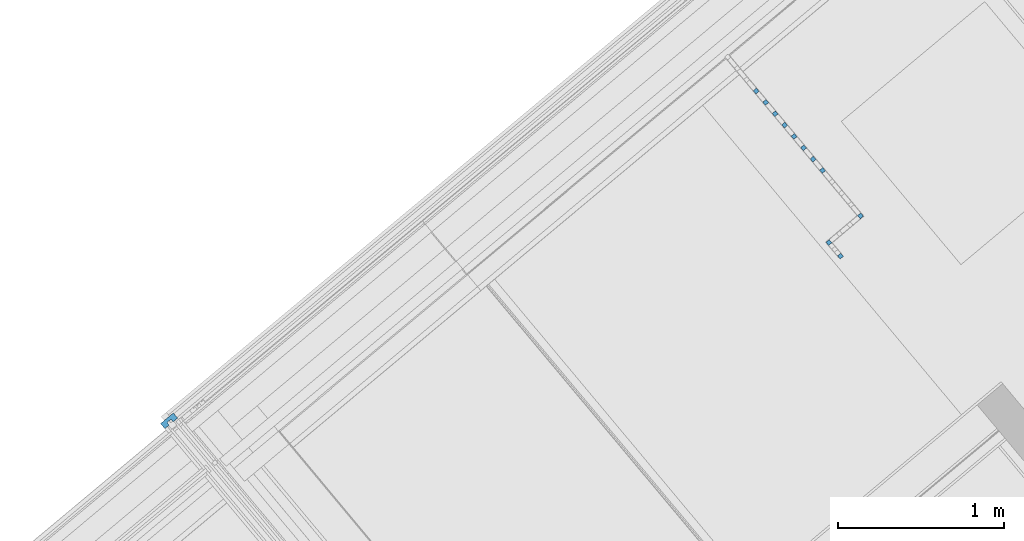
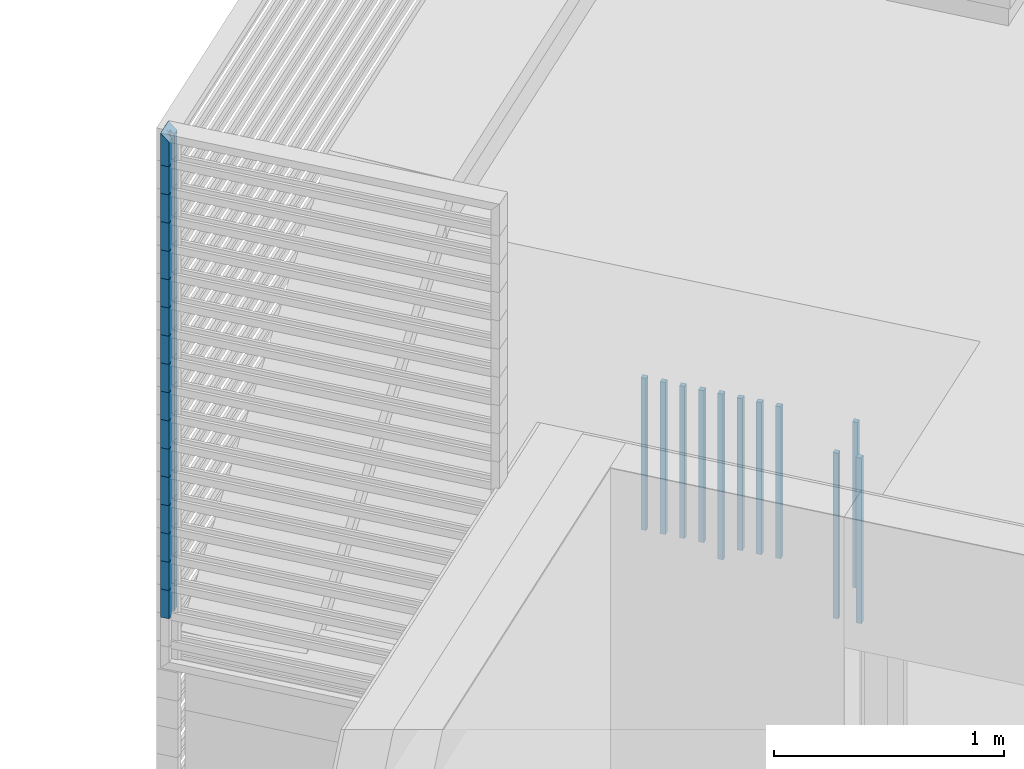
# One storey, part 42 of 50: 28 building element parts, 2 elements without a shape of their own.
"""IFC4 building model written with IfcOpenShell, lengths in metres."""

from ifc_helpers import new_model, entity, si_unit, converted_unit, derived_unit, direction, frame, origin_with_axes, place, context, subcontext, project, spatial, polygons, material, type_object, element, aggregate, save


model = new_model("IFC4")

# Units and contexts
model_context = context("Model", 3, precision=1e-05, world=origin_with_axes(), true_north=direction((0.0, 1.0)))
body_context = subcontext(model_context, "Body", "Model", "MODEL_VIEW")
ifc_project = project(units=[si_unit("LENGTHUNIT", "METRE"), si_unit("AREAUNIT", "SQUARE_METRE"), si_unit("VOLUMEUNIT", "CUBIC_METRE"), converted_unit("PLANEANGLEUNIT", "DEGREE", entity("IfcPlaneAngleMeasure", 0.0174532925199), si_unit("PLANEANGLEUNIT", "RADIAN"), dimensions=[0, 0, 0, 0, 0, 0, 0]), converted_unit("TIMEUNIT", "Year", entity("IfcTimeMeasure", 31556926.0), si_unit("TIMEUNIT", "SECOND"), dimensions=[0, 0, 1, 0, 0, 0, 0]), si_unit("MASSUNIT", "GRAM", prefix="KILO"), si_unit("THERMODYNAMICTEMPERATUREUNIT", "DEGREE_CELSIUS"), si_unit("LUMINOUSINTENSITYUNIT", "LUMEN"), si_unit("ENERGYUNIT", "JOULE", prefix="MEGA"), derived_unit("THERMALCONDUCTANCEUNIT", [(si_unit("POWERUNIT", "WATT"), 1), (si_unit("LENGTHUNIT", "METRE"), -1), (si_unit("THERMODYNAMICTEMPERATUREUNIT", "KELVIN"), -1)]), derived_unit("SPECIFICHEATCAPACITYUNIT", [(si_unit("ENERGYUNIT", "JOULE"), 1), (si_unit("MASSUNIT", "GRAM", prefix="KILO"), -1), (si_unit("THERMODYNAMICTEMPERATUREUNIT", "KELVIN"), -1)]), derived_unit("MASSDENSITYUNIT", [(si_unit("MASSUNIT", "GRAM", prefix="KILO"), 1), (si_unit("VOLUMEUNIT", "CUBIC_METRE"), -1)])], contexts=[model_context])

# Site, building, storey, space
site_placement = place(None, frame((-0.00153261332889, -0.00661245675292, 0.0), z_axis=(0.0, 0.0, 1.0), x_axis=(1.0, 0.0, 0.0)))
site = spatial("IfcSite", under=ifc_project, at=site_placement, Name="Gelände", CompositionType="ELEMENT")
building_placement = place(site_placement, origin_with_axes())
building = spatial("IfcBuilding", under=site, at=building_placement, Name="Gebäude", CompositionType="ELEMENT")
storey_placement = place(building_placement, frame((0.0, 0.0, 8.66), z_axis=(0.0, 0.0, 1.0), x_axis=(1.0, 0.0, 0.0)))
storey = spatial("IfcBuildingStorey", under=building, at=storey_placement, Name="DG2", CompositionType="ELEMENT", Elevation=8.66)
space_1_placement = place(storey_placement, frame((0.280300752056, 22.6307267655, 0.22), z_axis=(0.0, 0.0, 1.0), x_axis=(-0.641244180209, 0.767336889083, 0.0)))
space_1 = spatial("IfcSpace", under=storey, at=space_1_placement, CompositionType="ELEMENT", PredefinedType="NOTDEFINED")

# Railing, building element parts
railing_type = type_object("IfcRailingType", Name="Geländerart", PredefinedType="NOTDEFINED")
railing_placement = place(space_1_placement, frame((2.55535950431, -0.251805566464, -0.17), z_axis=(0.0, 0.0, 1.0), x_axis=(-0.641244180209, -0.767336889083, 0.0)))
railing = element("IfcRailing", 1, at=railing_placement, inside=space_1, type_object=railing_type, Name="Geländer - 001", PredefinedType="NOTDEFINED")
ifc_material_1 = material(Name="BEKLEIDUNG")
building_element_part_1_placement = place(railing_placement, origin_with_axes())
building_element_part_1 = element("IfcBuildingElementPart", 2, at=building_element_part_1_placement, material=ifc_material_1, Name="BEKLEIDUNG", PredefinedType="NOTDEFINED", context=body_context, shape_type="Tessellation", body=[
    polygons([(0.836143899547, -0.942270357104, 0.0), (0.855328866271, -0.926241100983, 0.0), (0.855328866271, -0.926241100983, 0.88), (0.836143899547, -0.942270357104, 0.88), (0.820114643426, -0.92308539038, 0.0), (0.83929961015, -0.907056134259, 0.0), (0.83929961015, -0.907056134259, 0.88), (0.820114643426, -0.92308539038, 0.88)], [[[1, 2, 3, 4]], [[1, 5, 6, 2]], [[2, 6, 7, 3]], [[4, 3, 7, 8]], [[5, 1, 4, 8]], [[6, 5, 8, 7]]], closed=True),
])
building_element_part_2_placement = place(railing_placement, origin_with_axes())
building_element_part_2 = element("IfcBuildingElementPart", 3, at=building_element_part_2_placement, material=ifc_material_1, Name="BEKLEIDUNG", PredefinedType="NOTDEFINED", context=body_context, shape_type="Tessellation", body=[
    polygons([(0.629909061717, -1.08347569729, 0.0), (0.646021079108, -1.10259121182, 0.0), (0.646021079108, -1.10259121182, 0.88), (0.629909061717, -1.08347569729, 0.88), (0.649024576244, -1.0673636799, 0.0), (0.665136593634, -1.08647919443, 0.0), (0.665136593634, -1.08647919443, 0.88), (0.649024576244, -1.0673636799, 0.88)], [[[1, 2, 3, 4]], [[1, 5, 6, 2]], [[2, 6, 7, 3]], [[4, 3, 7, 8]], [[5, 1, 4, 8]], [[6, 5, 8, 7]]], closed=True),
])
building_element_part_3_placement = place(railing_placement, origin_with_axes())
building_element_part_3 = element("IfcBuildingElementPart", 4, at=building_element_part_3_placement, material=ifc_material_1, Name="BEKLEIDUNG", PredefinedType="NOTDEFINED", context=body_context, shape_type="Tessellation", body=[
    polygons([(0.71546744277, -1.18434299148, 0.0), (0.734527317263, -1.16816519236, 0.0), (0.734527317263, -1.16816519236, 0.88), (0.71546744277, -1.18434299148, 0.88), (0.699289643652, -1.16528311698, 0.0), (0.718349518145, -1.14910531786, 0.0), (0.718349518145, -1.14910531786, 0.88), (0.699289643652, -1.16528311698, 0.88)], [[[1, 2, 3, 4]], [[1, 5, 6, 2]], [[2, 6, 7, 3]], [[4, 3, 7, 8]], [[5, 1, 4, 8]], [[6, 5, 8, 7]]], closed=True),
])
building_element_part_4_placement = place(railing_placement, origin_with_axes())
building_element_part_4 = element("IfcBuildingElementPart", 5, at=building_element_part_4_placement, material=ifc_material_1, Name="BEKLEIDUNG", PredefinedType="NOTDEFINED", context=body_context, shape_type="Tessellation", body=[
    polygons([(0.208081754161, -0.19056040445, 0.07), (0.227266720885, -0.174531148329, 0.07), (0.227266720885, -0.174531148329, 0.8775), (0.208081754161, -0.19056040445, 0.8775), (0.19205249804, -0.171375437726, 0.07), (0.211237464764, -0.155346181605, 0.07), (0.211237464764, -0.155346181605, 0.8775), (0.19205249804, -0.171375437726, 0.8775)], [[[1, 2, 3, 4]], [[1, 5, 6, 2]], [[2, 6, 7, 3]], [[4, 3, 7, 8]], [[5, 1, 4, 8]], [[6, 5, 8, 7]]], closed=True),
])
building_element_part_5_placement = place(railing_placement, origin_with_axes())
building_element_part_5 = element("IfcBuildingElementPart", 6, at=building_element_part_5_placement, material=ifc_material_1, Name="BEKLEIDUNG", PredefinedType="NOTDEFINED", context=body_context, shape_type="Tessellation", body=[
    polygons([(0.265178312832, -0.258897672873, 0.07), (0.284363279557, -0.242868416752, 0.07), (0.284363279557, -0.242868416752, 0.8775), (0.265178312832, -0.258897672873, 0.8775), (0.249149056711, -0.239712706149, 0.07), (0.268334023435, -0.223683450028, 0.07), (0.268334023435, -0.223683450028, 0.8775), (0.249149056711, -0.239712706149, 0.8775)], [[[1, 2, 3, 4]], [[1, 5, 6, 2]], [[2, 6, 7, 3]], [[4, 3, 7, 8]], [[5, 1, 4, 8]], [[6, 5, 8, 7]]], closed=True),
])
building_element_part_6_placement = place(railing_placement, origin_with_axes())
building_element_part_6 = element("IfcBuildingElementPart", 7, at=building_element_part_6_placement, material=ifc_material_1, Name="BEKLEIDUNG", PredefinedType="NOTDEFINED", context=body_context, shape_type="Tessellation", body=[
    polygons([(0.322274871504, -0.327234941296, 0.07), (0.341459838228, -0.311205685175, 0.07), (0.341459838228, -0.311205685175, 0.8775), (0.322274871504, -0.327234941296, 0.8775), (0.306245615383, -0.308049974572, 0.07), (0.325430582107, -0.292020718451, 0.07), (0.325430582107, -0.292020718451, 0.8775), (0.306245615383, -0.308049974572, 0.8775)], [[[1, 2, 3, 4]], [[1, 5, 6, 2]], [[2, 6, 7, 3]], [[4, 3, 7, 8]], [[5, 1, 4, 8]], [[6, 5, 8, 7]]], closed=True),
])
building_element_part_7_placement = place(railing_placement, origin_with_axes())
building_element_part_7 = element("IfcBuildingElementPart", 8, at=building_element_part_7_placement, material=ifc_material_1, Name="BEKLEIDUNG", PredefinedType="NOTDEFINED", context=body_context, shape_type="Tessellation", body=[
    polygons([(0.379371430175, -0.395572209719, 0.07), (0.398556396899, -0.379542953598, 0.07), (0.398556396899, -0.379542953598, 0.8775), (0.379371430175, -0.395572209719, 0.8775), (0.363342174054, -0.376387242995, 0.07), (0.382527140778, -0.360357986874, 0.07), (0.382527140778, -0.360357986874, 0.8775), (0.363342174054, -0.376387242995, 0.8775)], [[[1, 2, 3, 4]], [[1, 5, 6, 2]], [[2, 6, 7, 3]], [[4, 3, 7, 8]], [[5, 1, 4, 8]], [[6, 5, 8, 7]]], closed=True),
])
building_element_part_8_placement = place(railing_placement, origin_with_axes())
building_element_part_8 = element("IfcBuildingElementPart", 9, at=building_element_part_8_placement, material=ifc_material_1, Name="BEKLEIDUNG", PredefinedType="NOTDEFINED", context=body_context, shape_type="Tessellation", body=[
    polygons([(0.436467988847, -0.463909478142, 0.0), (0.455652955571, -0.447880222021, 0.0), (0.455652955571, -0.447880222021, 0.88), (0.436467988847, -0.463909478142, 0.88), (0.420438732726, -0.444724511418, 0.0), (0.43962369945, -0.428695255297, 0.0), (0.43962369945, -0.428695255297, 0.88), (0.420438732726, -0.444724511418, 0.88)], [[[1, 2, 3, 4]], [[1, 5, 6, 2]], [[2, 6, 7, 3]], [[4, 3, 7, 8]], [[5, 1, 4, 8]], [[6, 5, 8, 7]]], closed=True),
])
building_element_part_9_placement = place(railing_placement, origin_with_axes())
building_element_part_9 = element("IfcBuildingElementPart", 10, at=building_element_part_9_placement, material=ifc_material_1, Name="BEKLEIDUNG", PredefinedType="NOTDEFINED", context=body_context, shape_type="Tessellation", body=[
    polygons([(0.493564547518, -0.532246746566, 0.07), (0.512749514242, -0.516217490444, 0.07), (0.512749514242, -0.516217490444, 0.8775), (0.493564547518, -0.532246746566, 0.8775), (0.477535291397, -0.513061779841, 0.07), (0.496720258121, -0.49703252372, 0.07), (0.496720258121, -0.49703252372, 0.8775), (0.477535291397, -0.513061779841, 0.8775)], [[[1, 2, 3, 4]], [[1, 5, 6, 2]], [[2, 6, 7, 3]], [[4, 3, 7, 8]], [[5, 1, 4, 8]], [[6, 5, 8, 7]]], closed=True),
])
building_element_part_10_placement = place(railing_placement, origin_with_axes())
building_element_part_10 = element("IfcBuildingElementPart", 11, at=building_element_part_10_placement, material=ifc_material_1, Name="BEKLEIDUNG", PredefinedType="NOTDEFINED", context=body_context, shape_type="Tessellation", body=[
    polygons([(0.55066110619, -0.600584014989, 0.07), (0.569846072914, -0.584554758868, 0.07), (0.569846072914, -0.584554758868, 0.8775), (0.55066110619, -0.600584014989, 0.8775), (0.534631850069, -0.581399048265, 0.07), (0.553816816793, -0.565369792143, 0.07), (0.553816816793, -0.565369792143, 0.8775), (0.534631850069, -0.581399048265, 0.8775)], [[[1, 2, 3, 4]], [[1, 5, 6, 2]], [[2, 6, 7, 3]], [[4, 3, 7, 8]], [[5, 1, 4, 8]], [[6, 5, 8, 7]]], closed=True),
])
building_element_part_11_placement = place(railing_placement, origin_with_axes())
building_element_part_11 = element("IfcBuildingElementPart", 12, at=building_element_part_11_placement, material=ifc_material_1, Name="BEKLEIDUNG", PredefinedType="NOTDEFINED", context=body_context, shape_type="Tessellation", body=[
    polygons([(0.607757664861, -0.668921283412, 0.07), (0.626942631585, -0.652892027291, 0.07), (0.626942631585, -0.652892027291, 0.8775), (0.607757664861, -0.668921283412, 0.8775), (0.59172840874, -0.649736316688, 0.07), (0.610913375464, -0.633707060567, 0.07), (0.610913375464, -0.633707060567, 0.8775), (0.59172840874, -0.649736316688, 0.8775)], [[[1, 2, 3, 4]], [[1, 5, 6, 2]], [[2, 6, 7, 3]], [[4, 3, 7, 8]], [[5, 1, 4, 8]], [[6, 5, 8, 7]]], closed=True),
])
aggregate(railing, [building_element_part_1, building_element_part_2, building_element_part_3, building_element_part_4, building_element_part_5, building_element_part_6, building_element_part_7, building_element_part_8, building_element_part_9, building_element_part_10, building_element_part_11])

# Space
space_2_placement = place(storey_placement, frame((-4.06558748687, 22.1637970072, 0.22), z_axis=(0.0, 0.0, 1.0), x_axis=(-0.767365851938, -0.641209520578, 0.0)))
space_2 = spatial("IfcSpace", under=storey, at=space_2_placement, CompositionType="ELEMENT", PredefinedType="NOTDEFINED")

# Curtain wall, building element parts
curtain_wall_type = type_object("IfcCurtainWallType", Name="Fassadentyp", PredefinedType="NOTDEFINED")
curtain_wall_placement = place(space_2_placement, frame((0.05, 0.162364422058, 1.65), z_axis=(0.0, 0.0, 1.0), x_axis=(-0.767365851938, 0.641209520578, 0.0)))
curtain_wall = element("IfcCurtainWall", 13, at=curtain_wall_placement, inside=space_2, type_object=curtain_wall_type, Name="Fassade-001", PredefinedType="NOTDEFINED")
ifc_material_2 = material(Name="Blech")
building_element_part_12_placement = place(curtain_wall_placement, origin_with_axes())
building_element_part_12 = element("IfcBuildingElementPart", 14, at=building_element_part_12_placement, material=ifc_material_2, Name="Blech", PredefinedType="NOTDEFINED", context=body_context, shape_type="Tessellation", body=[
    polygons([(-0.479092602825, 0.596746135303, 0.400000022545), (-0.466268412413, 0.581398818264, 0.400000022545), (-0.439410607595, 0.603841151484, 0.400000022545), (-0.465058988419, 0.634535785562, 0.400000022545), (-0.541795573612, 0.570414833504, 0.400000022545), (-0.516147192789, 0.539720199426, 0.400000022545), (-0.489289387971, 0.562162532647, 0.400000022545), (-0.502113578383, 0.577509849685, 0.400000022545), (-0.479092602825, 0.596746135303, 0.250000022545), (-0.466268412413, 0.581398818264, 0.250000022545), (-0.439410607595, 0.603841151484, 0.250000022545), (-0.465058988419, 0.634535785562, 0.250000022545), (-0.541795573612, 0.570414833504, 0.250000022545), (-0.516147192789, 0.539720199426, 0.250000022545), (-0.489289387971, 0.562162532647, 0.250000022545), (-0.502113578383, 0.577509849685, 0.250000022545)], [[[1, 2, 3, 4, 5, 6, 7, 8]], [[1, 9, 10, 2]], [[10, 11, 3, 2]], [[11, 12, 4, 3]], [[12, 13, 5, 4]], [[13, 14, 6, 5]], [[7, 6, 14, 15]], [[15, 16, 8, 7]], [[8, 16, 9, 1]], [[9, 16, 15, 14, 13, 12, 11, 10]]], closed=True),
])
building_element_part_13_placement = place(curtain_wall_placement, origin_with_axes())
building_element_part_13 = element("IfcBuildingElementPart", 15, at=building_element_part_13_placement, material=ifc_material_2, Name="Blech", PredefinedType="NOTDEFINED", context=body_context, shape_type="Tessellation", body=[
    polygons([(-0.479092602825, 0.596746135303, 0.550000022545), (-0.466268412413, 0.581398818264, 0.550000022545), (-0.439410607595, 0.603841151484, 0.550000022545), (-0.465058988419, 0.634535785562, 0.550000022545), (-0.541795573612, 0.570414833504, 0.550000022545), (-0.516147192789, 0.539720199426, 0.550000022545), (-0.489289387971, 0.562162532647, 0.550000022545), (-0.502113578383, 0.577509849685, 0.550000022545), (-0.479092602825, 0.596746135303, 0.400000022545), (-0.466268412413, 0.581398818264, 0.400000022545), (-0.439410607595, 0.603841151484, 0.400000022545), (-0.465058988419, 0.634535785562, 0.400000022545), (-0.541795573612, 0.570414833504, 0.400000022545), (-0.516147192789, 0.539720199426, 0.400000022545), (-0.489289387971, 0.562162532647, 0.400000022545), (-0.502113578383, 0.577509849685, 0.400000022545)], [[[1, 2, 3, 4, 5, 6, 7, 8]], [[1, 9, 10, 2]], [[10, 11, 3, 2]], [[11, 12, 4, 3]], [[12, 13, 5, 4]], [[13, 14, 6, 5]], [[7, 6, 14, 15]], [[15, 16, 8, 7]], [[8, 16, 9, 1]], [[9, 16, 15, 14, 13, 12, 11, 10]]], closed=True),
])
building_element_part_14_placement = place(curtain_wall_placement, origin_with_axes())
building_element_part_14 = element("IfcBuildingElementPart", 16, at=building_element_part_14_placement, material=ifc_material_2, Name="Blech", PredefinedType="NOTDEFINED", context=body_context, shape_type="Tessellation", body=[
    polygons([(-0.479092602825, 0.596746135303, 0.700000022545), (-0.466268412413, 0.581398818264, 0.700000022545), (-0.439410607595, 0.603841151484, 0.700000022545), (-0.465058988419, 0.634535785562, 0.700000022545), (-0.541795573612, 0.570414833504, 0.700000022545), (-0.516147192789, 0.539720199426, 0.700000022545), (-0.489289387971, 0.562162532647, 0.700000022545), (-0.502113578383, 0.577509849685, 0.700000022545), (-0.479092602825, 0.596746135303, 0.550000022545), (-0.466268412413, 0.581398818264, 0.550000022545), (-0.439410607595, 0.603841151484, 0.550000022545), (-0.465058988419, 0.634535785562, 0.550000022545), (-0.541795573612, 0.570414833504, 0.550000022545), (-0.516147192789, 0.539720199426, 0.550000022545), (-0.489289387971, 0.562162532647, 0.550000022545), (-0.502113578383, 0.577509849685, 0.550000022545)], [[[1, 2, 3, 4, 5, 6, 7, 8]], [[1, 9, 10, 2]], [[10, 11, 3, 2]], [[11, 12, 4, 3]], [[12, 13, 5, 4]], [[13, 14, 6, 5]], [[7, 6, 14, 15]], [[15, 16, 8, 7]], [[8, 16, 9, 1]], [[9, 16, 15, 14, 13, 12, 11, 10]]], closed=True),
])
building_element_part_15_placement = place(curtain_wall_placement, origin_with_axes())
building_element_part_15 = element("IfcBuildingElementPart", 17, at=building_element_part_15_placement, material=ifc_material_2, Name="Blech", PredefinedType="NOTDEFINED", context=body_context, shape_type="Tessellation", body=[
    polygons([(-0.479092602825, 0.596746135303, 0.850000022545), (-0.466268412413, 0.581398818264, 0.850000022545), (-0.439410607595, 0.603841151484, 0.850000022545), (-0.465058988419, 0.634535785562, 0.850000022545), (-0.541795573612, 0.570414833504, 0.850000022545), (-0.516147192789, 0.539720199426, 0.850000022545), (-0.489289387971, 0.562162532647, 0.850000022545), (-0.502113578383, 0.577509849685, 0.850000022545), (-0.479092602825, 0.596746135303, 0.700000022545), (-0.466268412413, 0.581398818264, 0.700000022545), (-0.439410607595, 0.603841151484, 0.700000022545), (-0.465058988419, 0.634535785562, 0.700000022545), (-0.541795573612, 0.570414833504, 0.700000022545), (-0.516147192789, 0.539720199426, 0.700000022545), (-0.489289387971, 0.562162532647, 0.700000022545), (-0.502113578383, 0.577509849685, 0.700000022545)], [[[1, 2, 3, 4, 5, 6, 7, 8]], [[1, 9, 10, 2]], [[10, 11, 3, 2]], [[11, 12, 4, 3]], [[12, 13, 5, 4]], [[13, 14, 6, 5]], [[7, 6, 14, 15]], [[15, 16, 8, 7]], [[8, 16, 9, 1]], [[9, 16, 15, 14, 13, 12, 11, 10]]], closed=True),
])
building_element_part_16_placement = place(curtain_wall_placement, origin_with_axes())
building_element_part_16 = element("IfcBuildingElementPart", 18, at=building_element_part_16_placement, material=ifc_material_2, Name="Blech", PredefinedType="NOTDEFINED", context=body_context, shape_type="Tessellation", body=[
    polygons([(-0.479092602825, 0.596746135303, 1.00000002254), (-0.466268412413, 0.581398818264, 1.00000002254), (-0.439410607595, 0.603841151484, 1.00000002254), (-0.465058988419, 0.634535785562, 1.00000002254), (-0.541795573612, 0.570414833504, 1.00000002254), (-0.516147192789, 0.539720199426, 1.00000002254), (-0.489289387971, 0.562162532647, 1.00000002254), (-0.502113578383, 0.577509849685, 1.00000002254), (-0.479092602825, 0.596746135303, 0.850000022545), (-0.466268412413, 0.581398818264, 0.850000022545), (-0.439410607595, 0.603841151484, 0.850000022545), (-0.465058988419, 0.634535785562, 0.850000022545), (-0.541795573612, 0.570414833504, 0.850000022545), (-0.516147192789, 0.539720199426, 0.850000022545), (-0.489289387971, 0.562162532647, 0.850000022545), (-0.502113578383, 0.577509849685, 0.850000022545)], [[[1, 2, 3, 4, 5, 6, 7, 8]], [[1, 9, 10, 2]], [[10, 11, 3, 2]], [[11, 12, 4, 3]], [[12, 13, 5, 4]], [[13, 14, 6, 5]], [[7, 6, 14, 15]], [[15, 16, 8, 7]], [[8, 16, 9, 1]], [[9, 16, 15, 14, 13, 12, 11, 10]]], closed=True),
])
building_element_part_17_placement = place(curtain_wall_placement, origin_with_axes())
building_element_part_17 = element("IfcBuildingElementPart", 19, at=building_element_part_17_placement, material=ifc_material_2, Name="Blech", PredefinedType="NOTDEFINED", context=body_context, shape_type="Tessellation", body=[
    polygons([(-0.479092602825, 0.596746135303, 1.15000002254), (-0.466268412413, 0.581398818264, 1.15000002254), (-0.439410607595, 0.603841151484, 1.15000002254), (-0.465058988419, 0.634535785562, 1.15000002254), (-0.541795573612, 0.570414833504, 1.15000002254), (-0.516147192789, 0.539720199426, 1.15000002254), (-0.489289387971, 0.562162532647, 1.15000002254), (-0.502113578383, 0.577509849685, 1.15000002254), (-0.479092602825, 0.596746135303, 1.00000002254), (-0.466268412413, 0.581398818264, 1.00000002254), (-0.439410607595, 0.603841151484, 1.00000002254), (-0.465058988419, 0.634535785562, 1.00000002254), (-0.541795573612, 0.570414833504, 1.00000002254), (-0.516147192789, 0.539720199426, 1.00000002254), (-0.489289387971, 0.562162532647, 1.00000002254), (-0.502113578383, 0.577509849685, 1.00000002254)], [[[1, 2, 3, 4, 5, 6, 7, 8]], [[1, 9, 10, 2]], [[10, 11, 3, 2]], [[11, 12, 4, 3]], [[12, 13, 5, 4]], [[13, 14, 6, 5]], [[7, 6, 14, 15]], [[15, 16, 8, 7]], [[8, 16, 9, 1]], [[9, 16, 15, 14, 13, 12, 11, 10]]], closed=True),
])
building_element_part_18_placement = place(curtain_wall_placement, origin_with_axes())
building_element_part_18 = element("IfcBuildingElementPart", 20, at=building_element_part_18_placement, material=ifc_material_2, Name="Blech", PredefinedType="NOTDEFINED", context=body_context, shape_type="Tessellation", body=[
    polygons([(-0.479092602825, 0.596746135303, 1.30000002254), (-0.466268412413, 0.581398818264, 1.30000002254), (-0.439410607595, 0.603841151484, 1.30000002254), (-0.465058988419, 0.634535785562, 1.30000002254), (-0.541795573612, 0.570414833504, 1.30000002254), (-0.516147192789, 0.539720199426, 1.30000002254), (-0.489289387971, 0.562162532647, 1.30000002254), (-0.502113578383, 0.577509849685, 1.30000002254), (-0.479092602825, 0.596746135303, 1.15000002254), (-0.466268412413, 0.581398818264, 1.15000002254), (-0.439410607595, 0.603841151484, 1.15000002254), (-0.465058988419, 0.634535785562, 1.15000002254), (-0.541795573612, 0.570414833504, 1.15000002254), (-0.516147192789, 0.539720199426, 1.15000002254), (-0.489289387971, 0.562162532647, 1.15000002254), (-0.502113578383, 0.577509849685, 1.15000002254)], [[[1, 2, 3, 4, 5, 6, 7, 8]], [[1, 9, 10, 2]], [[10, 11, 3, 2]], [[11, 12, 4, 3]], [[12, 13, 5, 4]], [[13, 14, 6, 5]], [[7, 6, 14, 15]], [[15, 16, 8, 7]], [[8, 16, 9, 1]], [[9, 16, 15, 14, 13, 12, 11, 10]]], closed=True),
])
building_element_part_19_placement = place(curtain_wall_placement, origin_with_axes())
building_element_part_19 = element("IfcBuildingElementPart", 21, at=building_element_part_19_placement, material=ifc_material_2, Name="Blech", PredefinedType="NOTDEFINED", context=body_context, shape_type="Tessellation", body=[
    polygons([(-0.479092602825, 0.596746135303, 1.45000002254), (-0.466268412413, 0.581398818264, 1.45000002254), (-0.439410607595, 0.603841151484, 1.45000002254), (-0.465058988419, 0.634535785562, 1.45000002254), (-0.541795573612, 0.570414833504, 1.45000002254), (-0.516147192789, 0.539720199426, 1.45000002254), (-0.489289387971, 0.562162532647, 1.45000002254), (-0.502113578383, 0.577509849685, 1.45000002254), (-0.479092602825, 0.596746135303, 1.30000002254), (-0.466268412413, 0.581398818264, 1.30000002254), (-0.439410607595, 0.603841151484, 1.30000002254), (-0.465058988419, 0.634535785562, 1.30000002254), (-0.541795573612, 0.570414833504, 1.30000002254), (-0.516147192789, 0.539720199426, 1.30000002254), (-0.489289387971, 0.562162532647, 1.30000002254), (-0.502113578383, 0.577509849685, 1.30000002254)], [[[1, 2, 3, 4, 5, 6, 7, 8]], [[1, 9, 10, 2]], [[10, 11, 3, 2]], [[11, 12, 4, 3]], [[12, 13, 5, 4]], [[13, 14, 6, 5]], [[7, 6, 14, 15]], [[15, 16, 8, 7]], [[8, 16, 9, 1]], [[9, 16, 15, 14, 13, 12, 11, 10]]], closed=True),
])
building_element_part_20_placement = place(curtain_wall_placement, origin_with_axes())
building_element_part_20 = element("IfcBuildingElementPart", 22, at=building_element_part_20_placement, material=ifc_material_2, Name="Blech", PredefinedType="NOTDEFINED", context=body_context, shape_type="Tessellation", body=[
    polygons([(-0.479092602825, 0.596746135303, 1.60000002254), (-0.466268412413, 0.581398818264, 1.60000002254), (-0.439410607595, 0.603841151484, 1.60000002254), (-0.465058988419, 0.634535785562, 1.60000002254), (-0.541795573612, 0.570414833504, 1.60000002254), (-0.516147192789, 0.539720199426, 1.60000002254), (-0.489289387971, 0.562162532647, 1.60000002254), (-0.502113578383, 0.577509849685, 1.60000002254), (-0.479092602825, 0.596746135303, 1.45000002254), (-0.466268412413, 0.581398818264, 1.45000002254), (-0.439410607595, 0.603841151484, 1.45000002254), (-0.465058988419, 0.634535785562, 1.45000002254), (-0.541795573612, 0.570414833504, 1.45000002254), (-0.516147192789, 0.539720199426, 1.45000002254), (-0.489289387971, 0.562162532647, 1.45000002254), (-0.502113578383, 0.577509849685, 1.45000002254)], [[[1, 2, 3, 4, 5, 6, 7, 8]], [[1, 9, 10, 2]], [[10, 11, 3, 2]], [[11, 12, 4, 3]], [[12, 13, 5, 4]], [[13, 14, 6, 5]], [[7, 6, 14, 15]], [[15, 16, 8, 7]], [[8, 16, 9, 1]], [[9, 16, 15, 14, 13, 12, 11, 10]]], closed=True),
])
building_element_part_21_placement = place(curtain_wall_placement, origin_with_axes())
building_element_part_21 = element("IfcBuildingElementPart", 23, at=building_element_part_21_placement, material=ifc_material_2, Name="Blech", PredefinedType="NOTDEFINED", context=body_context, shape_type="Tessellation", body=[
    polygons([(-0.479092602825, 0.596746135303, 1.75000002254), (-0.466268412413, 0.581398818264, 1.75000002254), (-0.439410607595, 0.603841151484, 1.75000002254), (-0.465058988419, 0.634535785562, 1.75000002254), (-0.541795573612, 0.570414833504, 1.75000002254), (-0.516147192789, 0.539720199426, 1.75000002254), (-0.489289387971, 0.562162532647, 1.75000002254), (-0.502113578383, 0.577509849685, 1.75000002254), (-0.479092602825, 0.596746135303, 1.60000002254), (-0.466268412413, 0.581398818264, 1.60000002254), (-0.439410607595, 0.603841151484, 1.60000002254), (-0.465058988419, 0.634535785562, 1.60000002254), (-0.541795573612, 0.570414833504, 1.60000002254), (-0.516147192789, 0.539720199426, 1.60000002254), (-0.489289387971, 0.562162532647, 1.60000002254), (-0.502113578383, 0.577509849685, 1.60000002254)], [[[1, 2, 3, 4, 5, 6, 7, 8]], [[1, 9, 10, 2]], [[10, 11, 3, 2]], [[11, 12, 4, 3]], [[12, 13, 5, 4]], [[13, 14, 6, 5]], [[7, 6, 14, 15]], [[15, 16, 8, 7]], [[8, 16, 9, 1]], [[9, 16, 15, 14, 13, 12, 11, 10]]], closed=True),
])
building_element_part_22_placement = place(curtain_wall_placement, origin_with_axes())
building_element_part_22 = element("IfcBuildingElementPart", 24, at=building_element_part_22_placement, material=ifc_material_2, Name="Blech", PredefinedType="NOTDEFINED", context=body_context, shape_type="Tessellation", body=[
    polygons([(-0.479092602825, 0.596746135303, 1.90000002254), (-0.466268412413, 0.581398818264, 1.90000002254), (-0.439410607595, 0.603841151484, 1.90000002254), (-0.465058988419, 0.634535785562, 1.90000002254), (-0.541795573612, 0.570414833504, 1.90000002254), (-0.516147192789, 0.539720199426, 1.90000002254), (-0.489289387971, 0.562162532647, 1.90000002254), (-0.502113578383, 0.577509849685, 1.90000002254), (-0.479092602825, 0.596746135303, 1.75000002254), (-0.466268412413, 0.581398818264, 1.75000002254), (-0.439410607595, 0.603841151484, 1.75000002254), (-0.465058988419, 0.634535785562, 1.75000002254), (-0.541795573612, 0.570414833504, 1.75000002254), (-0.516147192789, 0.539720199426, 1.75000002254), (-0.489289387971, 0.562162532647, 1.75000002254), (-0.502113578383, 0.577509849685, 1.75000002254)], [[[1, 2, 3, 4, 5, 6, 7, 8]], [[1, 9, 10, 2]], [[10, 11, 3, 2]], [[11, 12, 4, 3]], [[12, 13, 5, 4]], [[13, 14, 6, 5]], [[7, 6, 14, 15]], [[15, 16, 8, 7]], [[8, 16, 9, 1]], [[9, 16, 15, 14, 13, 12, 11, 10]]], closed=True),
])
building_element_part_23_placement = place(curtain_wall_placement, origin_with_axes())
building_element_part_23 = element("IfcBuildingElementPart", 25, at=building_element_part_23_placement, material=ifc_material_2, Name="Blech", PredefinedType="NOTDEFINED", context=body_context, shape_type="Tessellation", body=[
    polygons([(-0.479092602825, 0.596746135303, 2.05000002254), (-0.466268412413, 0.581398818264, 2.05000002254), (-0.439410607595, 0.603841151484, 2.05000002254), (-0.465058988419, 0.634535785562, 2.05000002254), (-0.541795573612, 0.570414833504, 2.05000002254), (-0.516147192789, 0.539720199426, 2.05000002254), (-0.489289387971, 0.562162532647, 2.05000002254), (-0.502113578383, 0.577509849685, 2.05000002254), (-0.479092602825, 0.596746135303, 1.90000002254), (-0.466268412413, 0.581398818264, 1.90000002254), (-0.439410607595, 0.603841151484, 1.90000002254), (-0.465058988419, 0.634535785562, 1.90000002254), (-0.541795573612, 0.570414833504, 1.90000002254), (-0.516147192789, 0.539720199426, 1.90000002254), (-0.489289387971, 0.562162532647, 1.90000002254), (-0.502113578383, 0.577509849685, 1.90000002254)], [[[1, 2, 3, 4, 5, 6, 7, 8]], [[1, 9, 10, 2]], [[10, 11, 3, 2]], [[11, 12, 4, 3]], [[12, 13, 5, 4]], [[13, 14, 6, 5]], [[7, 6, 14, 15]], [[15, 16, 8, 7]], [[8, 16, 9, 1]], [[9, 16, 15, 14, 13, 12, 11, 10]]], closed=True),
])
building_element_part_24_placement = place(curtain_wall_placement, origin_with_axes())
building_element_part_24 = element("IfcBuildingElementPart", 26, at=building_element_part_24_placement, material=ifc_material_2, Name="Blech", PredefinedType="NOTDEFINED", context=body_context, shape_type="Tessellation", body=[
    polygons([(-0.479092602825, 0.596746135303, 2.20000002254), (-0.466268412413, 0.581398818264, 2.20000002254), (-0.439410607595, 0.603841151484, 2.20000002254), (-0.465058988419, 0.634535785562, 2.20000002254), (-0.541795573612, 0.570414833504, 2.20000002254), (-0.516147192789, 0.539720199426, 2.20000002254), (-0.489289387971, 0.562162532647, 2.20000002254), (-0.502113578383, 0.577509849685, 2.20000002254), (-0.479092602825, 0.596746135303, 2.05000002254), (-0.466268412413, 0.581398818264, 2.05000002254), (-0.439410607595, 0.603841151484, 2.05000002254), (-0.465058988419, 0.634535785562, 2.05000002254), (-0.541795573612, 0.570414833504, 2.05000002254), (-0.516147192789, 0.539720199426, 2.05000002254), (-0.489289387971, 0.562162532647, 2.05000002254), (-0.502113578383, 0.577509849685, 2.05000002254)], [[[1, 2, 3, 4, 5, 6, 7, 8]], [[1, 9, 10, 2]], [[10, 11, 3, 2]], [[11, 12, 4, 3]], [[12, 13, 5, 4]], [[13, 14, 6, 5]], [[7, 6, 14, 15]], [[15, 16, 8, 7]], [[8, 16, 9, 1]], [[9, 16, 15, 14, 13, 12, 11, 10]]], closed=True),
])
building_element_part_25_placement = place(curtain_wall_placement, origin_with_axes())
building_element_part_25 = element("IfcBuildingElementPart", 27, at=building_element_part_25_placement, material=ifc_material_2, Name="Blech", PredefinedType="NOTDEFINED", context=body_context, shape_type="Tessellation", body=[
    polygons([(-0.479092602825, 0.596746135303, 2.35000002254), (-0.466268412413, 0.581398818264, 2.35000002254), (-0.439410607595, 0.603841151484, 2.35000002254), (-0.465058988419, 0.634535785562, 2.35000002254), (-0.541795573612, 0.570414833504, 2.35000002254), (-0.516147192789, 0.539720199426, 2.35000002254), (-0.489289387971, 0.562162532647, 2.35000002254), (-0.502113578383, 0.577509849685, 2.35000002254), (-0.479092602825, 0.596746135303, 2.20000002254), (-0.466268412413, 0.581398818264, 2.20000002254), (-0.439410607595, 0.603841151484, 2.20000002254), (-0.465058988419, 0.634535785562, 2.20000002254), (-0.541795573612, 0.570414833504, 2.20000002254), (-0.516147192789, 0.539720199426, 2.20000002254), (-0.489289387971, 0.562162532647, 2.20000002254), (-0.502113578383, 0.577509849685, 2.20000002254)], [[[1, 2, 3, 4, 5, 6, 7, 8]], [[1, 9, 10, 2]], [[10, 11, 3, 2]], [[11, 12, 4, 3]], [[12, 13, 5, 4]], [[13, 14, 6, 5]], [[7, 6, 14, 15]], [[15, 16, 8, 7]], [[8, 16, 9, 1]], [[9, 16, 15, 14, 13, 12, 11, 10]]], closed=True),
])
building_element_part_26_placement = place(curtain_wall_placement, origin_with_axes())
building_element_part_26 = element("IfcBuildingElementPart", 28, at=building_element_part_26_placement, material=ifc_material_2, Name="Blech", PredefinedType="NOTDEFINED", context=body_context, shape_type="Tessellation", body=[
    polygons([(-0.479092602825, 0.596746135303, 2.50000002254), (-0.466268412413, 0.581398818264, 2.50000002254), (-0.439410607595, 0.603841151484, 2.50000002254), (-0.465058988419, 0.634535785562, 2.50000002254), (-0.541795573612, 0.570414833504, 2.50000002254), (-0.516147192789, 0.539720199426, 2.50000002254), (-0.489289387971, 0.562162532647, 2.50000002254), (-0.502113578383, 0.577509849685, 2.50000002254), (-0.479092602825, 0.596746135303, 2.35000002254), (-0.466268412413, 0.581398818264, 2.35000002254), (-0.439410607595, 0.603841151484, 2.35000002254), (-0.465058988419, 0.634535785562, 2.35000002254), (-0.541795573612, 0.570414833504, 2.35000002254), (-0.516147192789, 0.539720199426, 2.35000002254), (-0.489289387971, 0.562162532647, 2.35000002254), (-0.502113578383, 0.577509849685, 2.35000002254)], [[[1, 2, 3, 4, 5, 6, 7, 8]], [[1, 9, 10, 2]], [[10, 11, 3, 2]], [[11, 12, 4, 3]], [[12, 13, 5, 4]], [[13, 14, 6, 5]], [[7, 6, 14, 15]], [[15, 16, 8, 7]], [[8, 16, 9, 1]], [[9, 16, 15, 14, 13, 12, 11, 10]]], closed=True),
])
building_element_part_27_placement = place(curtain_wall_placement, origin_with_axes())
building_element_part_27 = element("IfcBuildingElementPart", 29, at=building_element_part_27_placement, material=ifc_material_2, Name="Blech", PredefinedType="NOTDEFINED", context=body_context, shape_type="Tessellation", body=[
    polygons([(-0.479092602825, 0.596746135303, 2.65000002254), (-0.466268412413, 0.581398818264, 2.65000002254), (-0.439410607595, 0.603841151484, 2.65000002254), (-0.465058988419, 0.634535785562, 2.65000002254), (-0.541795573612, 0.570414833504, 2.65000002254), (-0.516147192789, 0.539720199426, 2.65000002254), (-0.489289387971, 0.562162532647, 2.65000002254), (-0.502113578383, 0.577509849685, 2.65000002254), (-0.479092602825, 0.596746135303, 2.50000002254), (-0.466268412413, 0.581398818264, 2.50000002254), (-0.439410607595, 0.603841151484, 2.50000002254), (-0.465058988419, 0.634535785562, 2.50000002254), (-0.541795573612, 0.570414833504, 2.50000002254), (-0.516147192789, 0.539720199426, 2.50000002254), (-0.489289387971, 0.562162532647, 2.50000002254), (-0.502113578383, 0.577509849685, 2.50000002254)], [[[1, 2, 3, 4, 5, 6, 7, 8]], [[1, 9, 10, 2]], [[10, 11, 3, 2]], [[11, 12, 4, 3]], [[12, 13, 5, 4]], [[13, 14, 6, 5]], [[7, 6, 14, 15]], [[15, 16, 8, 7]], [[8, 16, 9, 1]], [[9, 16, 15, 14, 13, 12, 11, 10]]], closed=True),
])
building_element_part_28_placement = place(curtain_wall_placement, origin_with_axes())
building_element_part_28 = element("IfcBuildingElementPart", 30, at=building_element_part_28_placement, material=ifc_material_2, Name="Blech", PredefinedType="NOTDEFINED", context=body_context, shape_type="Tessellation", body=[
    polygons([(-0.479092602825, 0.596746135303, 2.80000002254), (-0.466268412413, 0.581398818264, 2.78000002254), (-0.439410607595, 0.603841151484, 2.78000002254), (-0.465058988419, 0.634535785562, 2.82000002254), (-0.541795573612, 0.570414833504, 2.82000002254), (-0.516147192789, 0.539720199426, 2.78000002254), (-0.489289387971, 0.562162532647, 2.78000002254), (-0.502113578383, 0.577509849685, 2.80000002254), (-0.479092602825, 0.596746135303, 2.65000002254), (-0.466268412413, 0.581398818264, 2.65000002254), (-0.439410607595, 0.603841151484, 2.65000002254), (-0.465058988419, 0.634535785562, 2.65000002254), (-0.541795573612, 0.570414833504, 2.65000002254), (-0.516147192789, 0.539720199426, 2.65000002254), (-0.489289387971, 0.562162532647, 2.65000002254), (-0.502113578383, 0.577509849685, 2.65000002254)], [[[1, 2, 3, 4, 5, 6, 7, 8]], [[1, 9, 10, 2]], [[10, 11, 3, 2]], [[11, 12, 4, 3]], [[12, 13, 5, 4]], [[13, 14, 6, 5]], [[7, 6, 14, 15]], [[15, 16, 8, 7]], [[8, 16, 9, 1]], [[9, 16, 15, 14, 13, 12, 11, 10]]], closed=True),
])
aggregate(curtain_wall, [building_element_part_12, building_element_part_13, building_element_part_14, building_element_part_15, building_element_part_16, building_element_part_17, building_element_part_18, building_element_part_19, building_element_part_20, building_element_part_21, building_element_part_22, building_element_part_23, building_element_part_24, building_element_part_25, building_element_part_26, building_element_part_27, building_element_part_28])

save(model, "model.ifc")
